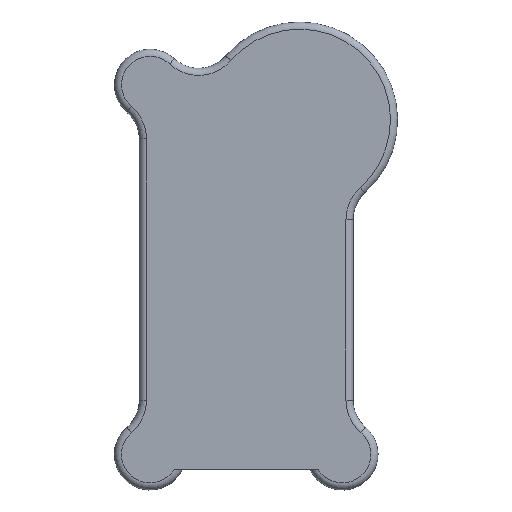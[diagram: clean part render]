
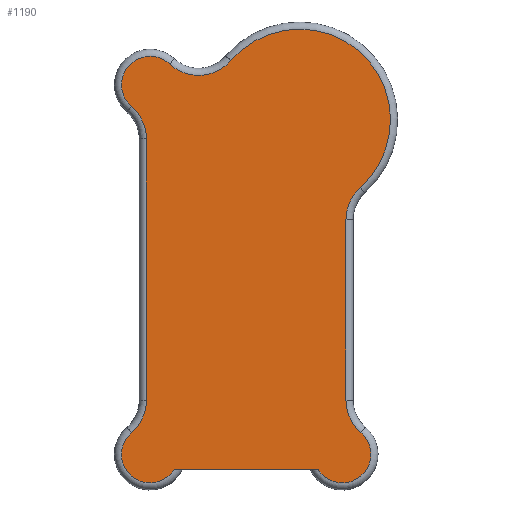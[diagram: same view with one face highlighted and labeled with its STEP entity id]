
A CAD part, top view. The second image highlights one B-rep face of the part: STEP entity #1190.
In plain terms, the highlighted planar face has unit normal (0, 0, 1).
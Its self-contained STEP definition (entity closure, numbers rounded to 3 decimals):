
#67=PLANE('',#1353);
#125=LINE('',#2048,#209);
#126=LINE('',#2072,#210);
#127=LINE('',#2093,#211);
#209=VECTOR('',#1625,10.);
#210=VECTOR('',#1660,10.);
#211=VECTOR('',#1675,10.);
#320=FACE_OUTER_BOUND('',#392,.T.);
#392=EDGE_LOOP('',(#965,#966,#967,#968,#969,#970,#971,#972,#973,#974,#975,
#976));
#479=CIRCLE('',#1324,8.);
#481=CIRCLE('',#1327,12.);
#484=CIRCLE('',#1332,12.);
#486=CIRCLE('',#1335,8.);
#488=CIRCLE('',#1338,12.);
#490=CIRCLE('',#1341,25.5);
#492=CIRCLE('',#1344,12.);
#495=CIRCLE('',#1349,12.);
#497=CIRCLE('',#1352,8.);
#572=VERTEX_POINT('',#2027);
#573=VERTEX_POINT('',#2029);
#574=VERTEX_POINT('',#2042);
#575=VERTEX_POINT('',#2046);
#576=VERTEX_POINT('',#2050);
#577=VERTEX_POINT('',#2054);
#578=VERTEX_POINT('',#2058);
#579=VERTEX_POINT('',#2062);
#580=VERTEX_POINT('',#2066);
#581=VERTEX_POINT('',#2070);
#582=VERTEX_POINT('',#2074);
#583=VERTEX_POINT('',#2078);
#709=EDGE_CURVE('',#573,#572,#479,.T.);
#711=EDGE_CURVE('',#572,#574,#481,.T.);
#713=EDGE_CURVE('',#574,#575,#125,.T.);
#715=EDGE_CURVE('',#575,#576,#484,.T.);
#717=EDGE_CURVE('',#576,#577,#486,.T.);
#719=EDGE_CURVE('',#577,#578,#488,.T.);
#721=EDGE_CURVE('',#578,#579,#490,.T.);
#723=EDGE_CURVE('',#579,#580,#492,.T.);
#725=EDGE_CURVE('',#580,#581,#126,.T.);
#727=EDGE_CURVE('',#581,#582,#495,.T.);
#730=EDGE_CURVE('',#582,#583,#497,.T.);
#731=EDGE_CURVE('',#573,#583,#127,.T.);
#965=ORIENTED_EDGE('',*,*,#731,.T.);
#966=ORIENTED_EDGE('',*,*,#730,.F.);
#967=ORIENTED_EDGE('',*,*,#727,.F.);
#968=ORIENTED_EDGE('',*,*,#725,.F.);
#969=ORIENTED_EDGE('',*,*,#723,.F.);
#970=ORIENTED_EDGE('',*,*,#721,.F.);
#971=ORIENTED_EDGE('',*,*,#719,.F.);
#972=ORIENTED_EDGE('',*,*,#717,.F.);
#973=ORIENTED_EDGE('',*,*,#715,.F.);
#974=ORIENTED_EDGE('',*,*,#713,.F.);
#975=ORIENTED_EDGE('',*,*,#711,.F.);
#976=ORIENTED_EDGE('',*,*,#709,.F.);
#1190=ADVANCED_FACE('',(#320),#67,.T.);
#1324=AXIS2_PLACEMENT_3D('',#2040,#1613,#1614);
#1327=AXIS2_PLACEMENT_3D('',#2044,#1619,#1620);
#1332=AXIS2_PLACEMENT_3D('',#2052,#1630,#1631);
#1335=AXIS2_PLACEMENT_3D('',#2056,#1636,#1637);
#1338=AXIS2_PLACEMENT_3D('',#2060,#1642,#1643);
#1341=AXIS2_PLACEMENT_3D('',#2064,#1648,#1649);
#1344=AXIS2_PLACEMENT_3D('',#2068,#1654,#1655);
#1349=AXIS2_PLACEMENT_3D('',#2076,#1665,#1666);
#1352=AXIS2_PLACEMENT_3D('',#2091,#1671,#1672);
#1353=AXIS2_PLACEMENT_3D('',#2092,#1673,#1674);
#1613=DIRECTION('center_axis',(0.,0.,-1.));
#1614=DIRECTION('ref_axis',(-0.601,-0.799,0.));
#1619=DIRECTION('center_axis',(0.,0.,1.));
#1620=DIRECTION('ref_axis',(0.908,-0.418,0.));
#1625=DIRECTION('',(0.,1.,0.));
#1630=DIRECTION('center_axis',(0.,0.,1.));
#1631=DIRECTION('ref_axis',(0.908,0.418,0.));
#1636=DIRECTION('center_axis',(0.,0.,-1.));
#1637=DIRECTION('ref_axis',(-0.746,0.666,0.));
#1642=DIRECTION('center_axis',(0.,0.,1.));
#1643=DIRECTION('ref_axis',(0.055,-0.999,0.));
#1648=DIRECTION('center_axis',(0.,0.,-1.));
#1649=DIRECTION('ref_axis',(0.701,0.713,0.));
#1654=DIRECTION('center_axis',(0.,0.,1.));
#1655=DIRECTION('ref_axis',(-0.913,0.408,0.));
#1660=DIRECTION('',(0.,-1.,0.));
#1665=DIRECTION('center_axis',(0.,0.,1.));
#1666=DIRECTION('ref_axis',(-0.908,-0.418,0.));
#1671=DIRECTION('center_axis',(0.,0.,-1.));
#1672=DIRECTION('ref_axis',(0.601,-0.799,0.));
#1673=DIRECTION('center_axis',(0.,0.,1.));
#1674=DIRECTION('ref_axis',(1.,0.,0.));
#1675=DIRECTION('',(1.,0.,0.));
#2027=CARTESIAN_POINT('',(-14.7,-97.283,2.));
#2029=CARTESIAN_POINT('',(-2.653,-107.5,2.));
#2040=CARTESIAN_POINT('Origin',(-9.5,-103.362,2.));
#2042=CARTESIAN_POINT('',(-10.5,-88.164,2.));
#2044=CARTESIAN_POINT('Origin',(-22.5,-88.164,2.));
#2046=CARTESIAN_POINT('',(-10.5,-14.836,2.));
#2048=CARTESIAN_POINT('',(-10.5,-23.5,2.));
#2050=CARTESIAN_POINT('',(-14.7,-5.717,2.));
#2052=CARTESIAN_POINT('Origin',(-22.5,-14.836,2.));
#2054=CARTESIAN_POINT('',(-4.053,6.221,2.));
#2056=CARTESIAN_POINT('Origin',(-9.5,0.362,2.));
#2058=CARTESIAN_POINT('',(13.2,7.167,2.));
#2060=CARTESIAN_POINT('Origin',(4.118,15.01,2.));
#2062=CARTESIAN_POINT('',(49.5,-28.507,2.));
#2064=CARTESIAN_POINT('Origin',(32.5,-9.5,2.));
#2066=CARTESIAN_POINT('',(45.5,-37.451,2.));
#2068=CARTESIAN_POINT('Origin',(57.5,-37.451,2.));
#2070=CARTESIAN_POINT('',(45.5,-88.164,2.));
#2072=CARTESIAN_POINT('',(45.5,-79.5,2.));
#2074=CARTESIAN_POINT('',(49.7,-97.283,2.));
#2076=CARTESIAN_POINT('Origin',(57.5,-88.164,2.));
#2078=CARTESIAN_POINT('',(37.653,-107.5,2.));
#2091=CARTESIAN_POINT('Origin',(44.5,-103.362,2.));
#2092=CARTESIAN_POINT('Origin',(17.5,-51.5,2.));
#2093=CARTESIAN_POINT('',(-12.5,-107.5,2.));
